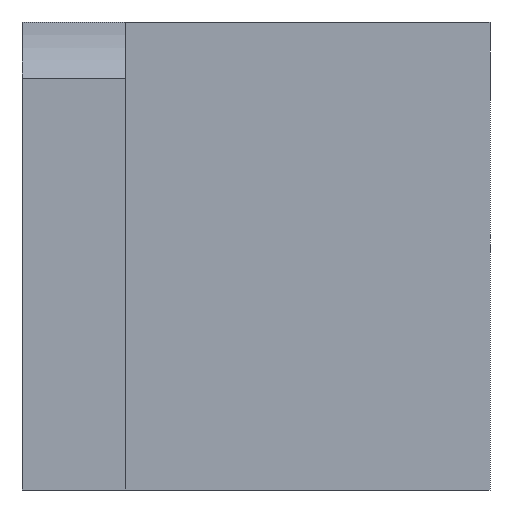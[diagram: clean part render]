
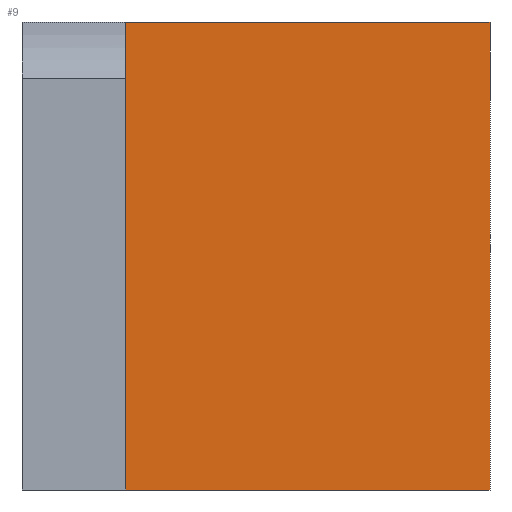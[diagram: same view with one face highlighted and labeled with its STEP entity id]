
A CAD part, front view. The second image highlights one B-rep face of the part: STEP entity #9.
In plain terms, the highlighted planar face has unit normal (0, -1, 0).
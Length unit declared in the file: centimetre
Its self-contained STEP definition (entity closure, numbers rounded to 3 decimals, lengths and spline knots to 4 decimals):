
#1 = VECTOR ( 'NONE', #131, 100. ) ;
#9 = ADVANCED_FACE ( 'NONE', ( #115 ), #55, .F. ) ;
#17 = CARTESIAN_POINT ( 'NONE',  ( 221.6005, 0., 1000. ) ) ;
#55 = PLANE ( 'NONE',  #176 ) ;
#74 = DIRECTION ( 'NONE',  ( 1., 0., 0. ) ) ;
#97 = DIRECTION ( 'NONE',  ( 0., 0., -1. ) ) ;
#103 = VECTOR ( 'NONE', #97, 100. ) ;
#107 = LINE ( 'NONE', #339, #358 ) ;
#110 = VERTEX_POINT ( 'NONE', #298 ) ;
#115 = FACE_OUTER_BOUND ( 'NONE', #118, .T. ) ;
#118 = EDGE_LOOP ( 'NONE', ( #144, #311, #135, #303 ) ) ;
#124 = LINE ( 'NONE', #150, #261 ) ;
#125 = EDGE_CURVE ( 'NONE', #307, #110, #124, .T. ) ;
#131 = DIRECTION ( 'NONE',  ( 0., 0., -1. ) ) ;
#135 = ORIENTED_EDGE ( 'NONE', *, *, #125, .T. ) ;
#144 = ORIENTED_EDGE ( 'NONE', *, *, #244, .F. ) ;
#148 = CARTESIAN_POINT ( 'NONE',  ( 1000., 0., 1000. ) ) ;
#150 = CARTESIAN_POINT ( 'NONE',  ( 0., 0., 0. ) ) ;
#154 = CARTESIAN_POINT ( 'NONE',  ( 221.6005, 0., 1000. ) ) ;
#165 = CARTESIAN_POINT ( 'NONE',  ( 0., 0., 1000. ) ) ;
#174 = EDGE_CURVE ( 'NONE', #251, #307, #266, .T. ) ;
#176 = AXIS2_PLACEMENT_3D ( 'NONE', #165, #282, #248 ) ;
#219 = VERTEX_POINT ( 'NONE', #148 ) ;
#220 = EDGE_CURVE ( 'NONE', #219, #110, #367, .T. ) ;
#240 = CARTESIAN_POINT ( 'NONE',  ( 221.6005, 0., 0. ) ) ;
#244 = EDGE_CURVE ( 'NONE', #251, #219, #107, .T. ) ;
#248 = DIRECTION ( 'NONE',  ( 0., 0., 1. ) ) ;
#251 = VERTEX_POINT ( 'NONE', #17 ) ;
#261 = VECTOR ( 'NONE', #323, 100. ) ;
#266 = LINE ( 'NONE', #154, #103 ) ;
#282 = DIRECTION ( 'NONE',  ( 0., 1., 0. ) ) ;
#298 = CARTESIAN_POINT ( 'NONE',  ( 1000., 0., 0. ) ) ;
#301 = CARTESIAN_POINT ( 'NONE',  ( 1000., 0., 1000. ) ) ;
#303 = ORIENTED_EDGE ( 'NONE', *, *, #220, .F. ) ;
#307 = VERTEX_POINT ( 'NONE', #240 ) ;
#311 = ORIENTED_EDGE ( 'NONE', *, *, #174, .T. ) ;
#323 = DIRECTION ( 'NONE',  ( 1., 0., 0. ) ) ;
#339 = CARTESIAN_POINT ( 'NONE',  ( 0., 0., 1000. ) ) ;
#358 = VECTOR ( 'NONE', #74, 100. ) ;
#367 = LINE ( 'NONE', #301, #1 ) ;
